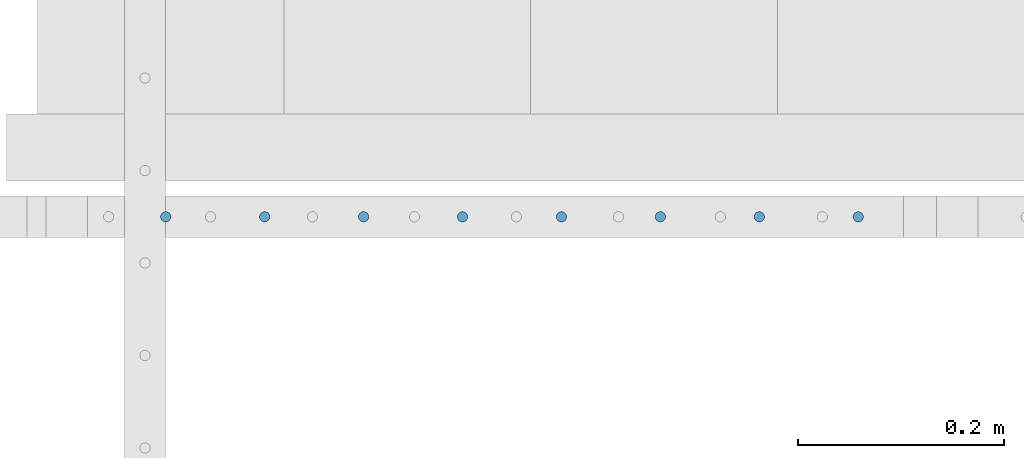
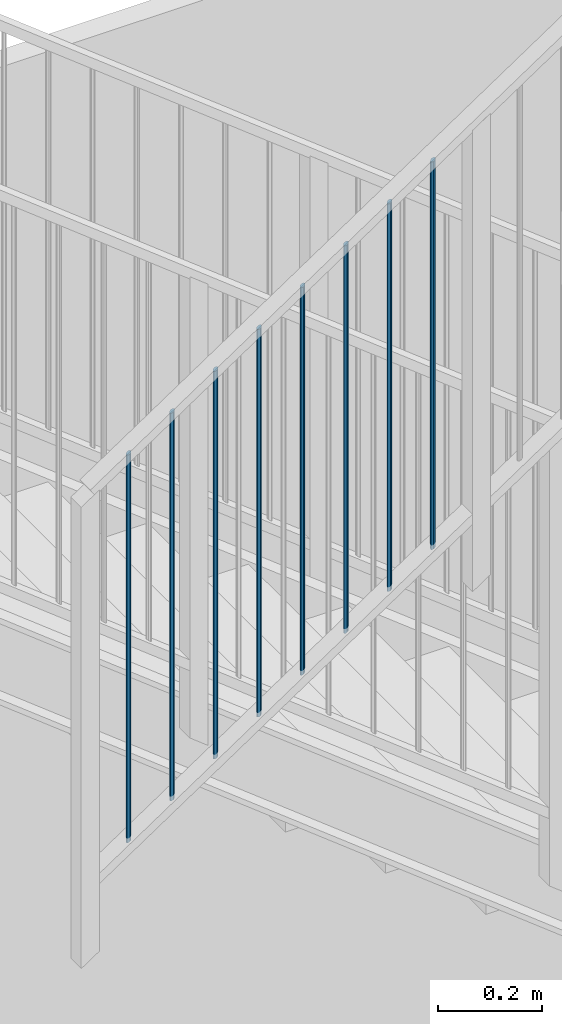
# One storey, part 13 of 135: 8 members, 1 element without a shape of its own.
"""IFC2X3 building model written with IfcOpenShell, lengths in millimetres."""

import ifcopenshell
import ifcopenshell.guid

model = None  # the IFC model being written
_history = None  # IfcOwnerHistory: only IFC2X3 demands one
_inside = {}  # id of a spatial element -> (the spatial element, [elements in it])
_under = {}  # id of a project, library or spatial element -> (it, [spatial elements below it])
_declared = {}  # id of a project -> (the project, [libraries it declares])
_typed = {}  # id of a type object -> (the type object, [elements of that type])
_made_of = {}  # id of a material, layer set ... -> (it, [elements and type objects made of it])


def new_model(schema):
    """Start an empty IFC model of exactly this schema.

    Asked for "IFC4X3", IfcOpenShell would pick the latest addendum, in which some entities
    have other attributes; the version numbers below select the first issue.
    IFC2X3 requires an IfcOwnerHistory on every rooted entity: one is made here for all.
    """
    global model, _history
    if schema == "IFC4X3":
        model = ifcopenshell.file(schema_version=(4, 3, 0, 0))
    else:
        model = ifcopenshell.file(schema=schema)
    _inside.clear()
    _under.clear()
    _declared.clear()
    _typed.clear()
    _made_of.clear()
    _history = None
    if model.schema == "IFC2X3":
        org = make("IfcOrganization", Name="unknown")
        user = make(
            "IfcPersonAndOrganization",
            ThePerson=make("IfcPerson", FamilyName="unknown"),
            TheOrganization=org,
        )
        app = make(
            "IfcApplication",
            ApplicationDeveloper=org,
            Version="unknown",
            ApplicationFullName="unknown",
            ApplicationIdentifier="unknown",
        )
        _history = make(
            "IfcOwnerHistory",
            OwningUser=user,
            OwningApplication=app,
            ChangeAction="ADDED",
            CreationDate=0,
        )
    return model


def make(cls, **values):
    """One entity of the class cls with the attributes given. An attribute that is None is left unset."""
    return model.create_entity(
        cls, **{name: value for name, value in values.items() if value is not None}
    )


def entity(cls, *values):
    """Any entity or typed value of the class cls, its attributes in the order of the schema. None: left unset."""
    e = model.create_entity(cls)
    for i, value in enumerate(values):
        if value is not None:
            e[i] = value
    return e


def rooted(cls, **values):
    """An entity with a GlobalId (a new one), such as an element, a storey or a relation."""
    return make(cls, GlobalId=ifcopenshell.guid.new(), OwnerHistory=_history, **values)


def si_unit(unit_type, name, prefix=None):
    """IfcSIUnit, for example si_unit("LENGTHUNIT", "METRE", prefix="MILLI")."""
    return make("IfcSIUnit", UnitType=unit_type, Prefix=prefix, Name=name)


def converted_unit(unit_type, name, factor, base, dimensions=None, offset=None):
    """IfcConversionBasedUnit, such as the inch: factor (a typed value) times the base unit."""
    return make(
        "IfcConversionBasedUnit"
        if offset is None
        else "IfcConversionBasedUnitWithOffset",
        ConversionOffset=offset,
        Dimensions=None
        if dimensions is None
        else entity("IfcDimensionalExponents", *dimensions),
        UnitType=unit_type,
        Name=name,
        ConversionFactor=make(
            "IfcMeasureWithUnit", ValueComponent=factor, UnitComponent=base
        ),
    )


def derived_unit(unit_type, elements):
    """IfcDerivedUnit: a product of units, each with its exponent."""
    return make(
        "IfcDerivedUnit",
        Elements=[
            make("IfcDerivedUnitElement", Unit=unit, Exponent=power)
            for unit, power in elements
        ],
        UnitType=unit_type,
    )


def money_unit(currency):
    """IfcMonetaryUnit."""
    return make("IfcMonetaryUnit", Currency=currency)


def assignment(units):
    """IfcUnitAssignment: the units of a project."""
    return None if units is None else make("IfcUnitAssignment", Units=units)


def point(xyz):
    """IfcCartesianPoint."""
    return None if xyz is None else make("IfcCartesianPoint", Coordinates=xyz)


def direction(xyz):
    """IfcDirection."""
    return None if xyz is None else make("IfcDirection", DirectionRatios=xyz)


def frame(location, z_axis=None, x_axis=None):
    """IfcAxis2Placement3D, a coordinate frame: its origin and axes. An axis left out is left unset."""
    return make(
        "IfcAxis2Placement3D",
        Location=point(location),
        Axis=direction(z_axis),
        RefDirection=direction(x_axis),
    )


def origin_with_axes():
    """The frame at (0, 0, 0) with the z axis (0, 0, 1) and the x axis (1, 0, 0) written out."""
    return frame((0.0, 0.0, 0.0), z_axis=(0.0, 0.0, 1.0), x_axis=(1.0, 0.0, 0.0))


def place(relative_to, where):
    """IfcLocalPlacement: puts the frame where relative to a parent placement (None: the world)."""
    return make(
        "IfcLocalPlacement", PlacementRelTo=relative_to, RelativePlacement=where
    )


def context(
    kind, dimensions, precision=None, world=None, true_north=None, identifier=None
):
    """IfcGeometricRepresentationContext, for example the 3D "Model" context."""
    return make(
        "IfcGeometricRepresentationContext",
        ContextIdentifier=identifier,
        ContextType=kind,
        CoordinateSpaceDimension=dimensions,
        Precision=precision,
        WorldCoordinateSystem=world,
        TrueNorth=true_north,
    )


def subcontext(parent, identifier, kind, view, scale=None):
    """IfcGeometricRepresentationSubContext, for example "Body" below "Model"."""
    return make(
        "IfcGeometricRepresentationSubContext",
        ContextIdentifier=identifier,
        ContextType=kind,
        ParentContext=parent,
        TargetScale=scale,
        TargetView=view,
    )


def project(units=None, contexts=None):
    """IfcProject with its units and contexts."""
    return rooted(
        "IfcProject",
        Name="project",
        RepresentationContexts=contexts,
        UnitsInContext=assignment(units),
    )


def spatial(cls, under=None, at=None, **own):
    """A site, building, storey or space (cls), placed at a placement, below another one or the project."""
    s = rooted(cls, ObjectPlacement=at, **own)
    if under is not None:
        _under.setdefault(under.id(), (under, []))[1].append(s)
    return s


def faces_of(points, faces, orient=None, outer=None):
    """IfcFace entities. A face is a list of loops; a loop is a list of indices into points, from 0.

    orient and outer hold one flag for each loop. By default every Orientation is true, the
    first loop of a face is its IfcFaceOuterBound and the others are IfcFaceBound.
    """
    made = []
    for i, loops in enumerate(faces):
        bounds = []
        for j, loop in enumerate(loops):
            is_outer = j == 0 if outer is None else outer[i][j]
            bounds.append(
                make(
                    "IfcFaceOuterBound" if is_outer else "IfcFaceBound",
                    Bound=make("IfcPolyLoop", Polygon=[points[k] for k in loop]),
                    Orientation=True if orient is None else orient[i][j],
                )
            )
        made.append(make("IfcFace", Bounds=bounds))
    return made


def faceted_brep(points, faces, orient=None, outer=None, voids=None):
    """IfcFacetedBrep: a solid bounded by flat faces; with voids (closed shells), ...WithVoids."""
    shared = [point(p) for p in points]
    hull = make("IfcClosedShell", CfsFaces=faces_of(shared, faces, orient, outer))
    if voids is None:
        return make("IfcFacetedBrep", Outer=hull)
    return make(
        "IfcFacetedBrepWithVoids",
        Outer=hull,
        Voids=[
            make(cls, CfsFaces=faces_of(shared, fs, o, b)) for cls, fs, o, b in voids
        ],
    )


def shape(context_of_items, identifier, shape_type, items):
    """IfcShapeRepresentation: the items that make up one representation, for example the "Body"."""
    return make(
        "IfcShapeRepresentation",
        ContextOfItems=context_of_items,
        RepresentationIdentifier=identifier,
        RepresentationType=shape_type,
        Items=items,
    )


def source(mapping_origin, context_of_items, identifier, shape_type, items):
    """IfcRepresentationMap: a shape defined once, which mapped items show again and again."""
    return make(
        "IfcRepresentationMap",
        MappingOrigin=mapping_origin,
        MappedRepresentation=shape(context_of_items, identifier, shape_type, items),
    )


def transform(
    local_origin,
    x_axis=None,
    y_axis=None,
    z_axis=None,
    scale=None,
    scale2=None,
    scale3=None,
    uniform=True,
):
    """IfcCartesianTransformationOperator3D, or its non-uniform kind. x_axis, y_axis, z_axis: its Axis1, 2, 3."""
    if uniform:
        return make(
            "IfcCartesianTransformationOperator3D",
            Axis1=direction(x_axis),
            Axis2=direction(y_axis),
            LocalOrigin=point(local_origin),
            Scale=scale,
            Axis3=direction(z_axis),
        )
    return make(
        "IfcCartesianTransformationOperator3DnonUniform",
        Axis1=direction(x_axis),
        Axis2=direction(y_axis),
        LocalOrigin=point(local_origin),
        Scale=scale,
        Axis3=direction(z_axis),
        Scale2=scale2,
        Scale3=scale3,
    )


def mapped(mapping_source, mapping_target):
    """IfcMappedItem: shows the shape of a source again, moved by a transform."""
    return make(
        "IfcMappedItem", MappingSource=mapping_source, MappingTarget=mapping_target
    )


def material(Name=None, Category=None):
    """IfcMaterial."""
    return make("IfcMaterial", Name=Name, Category=Category)


def made_of(thing, what):
    """Note that an element or type object is made of a material, layer set ...; save() writes the relation."""
    if what is not None:
        _made_of.setdefault(what.id(), (what, []))[1].append(thing)
    return thing


def type_object(cls, material=None, **own):
    """A type object (cls), such as IfcWallType, which elements share."""
    return made_of(rooted(cls, **own), material)


def type_shapes(of_type, sources):
    """Give a type object the sources (RepresentationMaps) that its elements show as mapped items."""
    of_type.RepresentationMaps = sources


def element(
    cls,
    number,
    at=None,
    inside=None,
    cuts=None,
    type_object=None,
    material=None,
    context=None,
    identifier="Body",
    shape_type=None,
    held_by="IfcProductDefinitionShape",
    body=None,
    shapes=None,
    **own,
):
    """One element of the class cls, such as IfcWall. Its Tag is "e" and its number.

    at: its placement. inside: the storey or other place that contains it. cuts: it is an
    opening in that element (IfcRelVoidsElement). A single representation is given by context,
    identifier, shape_type and body (its items); several are given by shapes. held_by: the class
    of the entity that holds the representations. save() writes the other relations.
    """
    e = rooted(cls, Tag="e%d" % number, ObjectPlacement=at, **own)
    if body is not None:
        shapes = [shape(context, identifier, shape_type, body)]
    if shapes is not None:
        e.Representation = make(held_by, Representations=shapes)
    if inside is not None:
        _inside.setdefault(inside.id(), (inside, []))[1].append(e)
    if cuts is not None:
        rooted(
            "IfcRelVoidsElement", RelatingBuildingElement=cuts, RelatedOpeningElement=e
        )
    if type_object is not None:
        _typed.setdefault(type_object.id(), (type_object, []))[1].append(e)
    return made_of(e, material)


def aggregate(whole, parts):
    """IfcRelAggregates: a whole, such as a stair, and the parts it consists of."""
    return rooted("IfcRelAggregates", RelatingObject=whole, RelatedObjects=parts)


def save(model, path):
    """Write the relations noted so far, then the file.

    IfcRelAggregates (storeys below a building ...), IfcRelContainedInSpatialStructure (elements
    in a storey), IfcRelDefinesByType, IfcRelAssociatesMaterial and IfcRelDeclares: one each for
    every whole, place, type object, material and project.
    """
    for whole, parts in _under.values():
        aggregate(whole, parts)
    for where, things in _inside.values():
        rooted(
            "IfcRelContainedInSpatialStructure",
            RelatedElements=things,
            RelatingStructure=where,
        )
    for kind, things in _typed.values():
        rooted("IfcRelDefinesByType", RelatedObjects=things, RelatingType=kind)
    for what, things in _made_of.values():
        rooted("IfcRelAssociatesMaterial", RelatedObjects=things, RelatingMaterial=what)
    for by, libraries in _declared.values():
        rooted("IfcRelDeclares", RelatingContext=by, RelatedDefinitions=libraries)
    model.write(path)


model = new_model("IFC2X3")

# Units and contexts
model_context = context("Model", 3, precision=0.01, world=origin_with_axes(), true_north=direction((0.0, 1.0)))
body_context = subcontext(model_context, "Body", "Model", "MODEL_VIEW")
ifc_project = project(units=[si_unit("LENGTHUNIT", "METRE", prefix="MILLI"), si_unit("AREAUNIT", "SQUARE_METRE"), si_unit("VOLUMEUNIT", "CUBIC_METRE"), converted_unit("PLANEANGLEUNIT", "DEGREE", entity("IfcPlaneAngleMeasure", 0.0174532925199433), si_unit("PLANEANGLEUNIT", "RADIAN"), dimensions=[0, 0, 0, 0, 0, 0, 0]), money_unit("EUR"), converted_unit("TIMEUNIT", "Year", entity("IfcTimeMeasure", 31557600.0), si_unit("TIMEUNIT", "SECOND"), dimensions=[0, 0, 1, 0, 0, 0, 0]), si_unit("MASSUNIT", "GRAM", prefix="KILO"), si_unit("THERMODYNAMICTEMPERATUREUNIT", "DEGREE_CELSIUS"), si_unit("LUMINOUSINTENSITYUNIT", "LUMEN"), si_unit("ENERGYUNIT", "JOULE", prefix="MEGA"), derived_unit("THERMALCONDUCTANCEUNIT", [(si_unit("POWERUNIT", "WATT"), 1), (si_unit("LENGTHUNIT", "METRE"), -1), (si_unit("THERMODYNAMICTEMPERATUREUNIT", "KELVIN"), -1)]), derived_unit("SPECIFICHEATCAPACITYUNIT", [(si_unit("ENERGYUNIT", "JOULE"), 1), (si_unit("MASSUNIT", "GRAM", prefix="KILO"), -1), (si_unit("THERMODYNAMICTEMPERATUREUNIT", "KELVIN"), -1)]), derived_unit("MASSDENSITYUNIT", [(si_unit("MASSUNIT", "GRAM", prefix="KILO"), 1), (si_unit("VOLUMEUNIT", "CUBIC_METRE"), -1)])], contexts=[model_context])

# Site, building, storey
site_placement = place(None, origin_with_axes())
site = spatial("IfcSite", under=ifc_project, at=site_placement, Name="Site", CompositionType="ELEMENT")
building_placement = place(site_placement, origin_with_axes())
building = spatial("IfcBuilding", under=site, at=building_placement, Name="Naam gebouw", CompositionType="ELEMENT")
storey_placement = place(building_placement, origin_with_axes())
storey = spatial("IfcBuildingStorey", under=building, at=storey_placement, Name="Begane grond N", CompositionType="ELEMENT", Elevation=0.0)

# Railing, members
railing_type = type_object("IfcRailingType", Name="Railing Type", PredefinedType="NOTDEFINED")
railing_placement = place(storey_placement, frame((56236.62159597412, 21185.9124251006, 4176.0), z_axis=(0.0, 0.0, 1.0), x_axis=(1.0, 0.0, 0.0)))
railing = element("IfcRailing", 1, at=railing_placement, inside=storey, type_object=railing_type, Name="_Reling-x", PredefinedType="NOTDEFINED")
ifc_material = material(Name="Metaal - Staal C")
member_type = type_object("IfcMemberType", Name="IfcMember", PredefinedType="MEMBER")
shared_shape = source(origin_with_axes(), body_context, "Body", "Brep", [
    faceted_brep([(0.0, -5.000000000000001, -3.340321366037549), (0.8682408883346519, -4.924038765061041, -3.289574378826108), (0.8682408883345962, -4.924038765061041, 904.2104256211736), (0.0, -5.000000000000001, 904.1596786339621), (-0.8682408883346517, -4.924038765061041, -3.289574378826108), (-1.710100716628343, -4.698463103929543, -3.13887533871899), (-2.500000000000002, -4.330127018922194, -2.892803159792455), (-3.213938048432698, -3.83022221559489, -2.558834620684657), (-3.830222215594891, -3.213938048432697, -2.147117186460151), (-4.330127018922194, -2.500000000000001, -1.670160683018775), (-4.698463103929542, -1.710100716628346, -1.142457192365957), (-4.924038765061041, -0.8682408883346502, -0.5800407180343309), (-5.0, 0.0, 0.0), (-4.92403876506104, 0.8682408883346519, 0.5800407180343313), (-4.698463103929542, 1.710100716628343, 1.142457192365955), (-4.330127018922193, 2.500000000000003, 1.670160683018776), (-3.83022221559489, 3.213938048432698, 2.147117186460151), (-3.213938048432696, 3.830222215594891, 2.558834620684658), (-2.5, 4.330127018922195, 2.892803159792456), (-1.710100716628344, 4.698463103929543, 3.13887533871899), (-0.8682408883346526, 4.924038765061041, 3.289574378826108), (0.0, 5.000000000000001, 3.340321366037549), (0.8682408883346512, 4.924038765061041, 3.289574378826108), (1.710100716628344, 4.698463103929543, 3.13887533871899), (2.5, 4.330127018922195, 2.892803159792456), (3.213938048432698, 3.83022221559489, 2.558834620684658), (3.83022221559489, 3.213938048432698, 2.147117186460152), (4.330127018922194, 2.499999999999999, 1.670160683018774), (4.698463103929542, 1.710100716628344, 1.142457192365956), (4.92403876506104, 0.8682408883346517, 0.580040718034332), (5.0, 0.0, 0.0), (4.92403876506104, -0.8682408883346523, -0.5800407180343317), (4.698463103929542, -1.710100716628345, -1.142457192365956), (4.330127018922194, -2.500000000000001, -1.670160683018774), (3.83022221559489, -3.213938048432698, -2.147117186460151), (3.213938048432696, -3.830222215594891, -2.558834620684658), (2.5, -4.330127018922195, -2.892803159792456), (1.710100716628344, -4.698463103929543, -3.13887533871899), (1.710100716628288, -4.698463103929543, 904.3611246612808), (2.499999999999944, -4.330127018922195, 904.6071968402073), (3.213938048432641, -3.830222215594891, 904.9411653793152), (3.830222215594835, -3.213938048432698, 905.3528828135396), (4.330127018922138, -2.500000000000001, 905.8298393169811), (4.698463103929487, -1.710100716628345, 906.3575428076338), (4.924038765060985, -0.8682408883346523, 906.9199592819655), (4.999999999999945, 0.0, 907.4999999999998), (4.924038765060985, 0.8682408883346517, 908.0800407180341), (4.698463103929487, 1.710100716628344, 908.6424571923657), (4.330127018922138, 2.499999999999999, 909.1701606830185), (3.830222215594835, 3.213938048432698, 909.6471171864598), (3.213938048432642, 3.83022221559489, 910.0588346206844), (2.499999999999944, 4.330127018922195, 910.3928031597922), (1.710100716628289, 4.698463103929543, 910.6388753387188), (0.8682408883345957, 4.924038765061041, 910.7895743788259), (0.0, 5.000000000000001, 910.8403213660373), (-0.8682408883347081, 4.924038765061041, 910.7895743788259), (-1.710100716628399, 4.698463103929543, 910.6388753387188), (-2.500000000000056, 4.330127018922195, 910.3928031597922), (-3.213938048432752, 3.830222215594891, 910.0588346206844), (-3.830222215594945, 3.213938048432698, 909.6471171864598), (-4.330127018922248, 2.500000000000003, 909.1701606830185), (-4.698463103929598, 1.710100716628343, 908.6424571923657), (-4.924038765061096, 0.8682408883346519, 908.0800407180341), (-5.000000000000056, 0.0, 907.4999999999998), (-4.924038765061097, -0.8682408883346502, 906.9199592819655), (-4.698463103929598, -1.710100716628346, 906.3575428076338), (-4.330127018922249, -2.500000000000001, 905.8298393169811), (-3.830222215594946, -3.213938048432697, 905.3528828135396), (-3.213938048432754, -3.83022221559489, 904.9411653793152), (-2.500000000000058, -4.330127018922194, 904.6071968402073), (-1.710100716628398, -4.698463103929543, 904.3611246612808), (-0.8682408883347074, -4.924038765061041, 904.2104256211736)], [[[0, 1, 2, 3]], [[0, 4, 5, 6, 7, 8, 9, 10, 11, 12, 13, 14, 15, 16, 17, 18, 19, 20, 21, 22, 23, 24, 25, 26, 27, 28, 29, 30, 31, 32, 33, 34, 35, 36, 37, 1]], [[1, 37, 38, 2]], [[3, 2, 38, 39, 40, 41, 42, 43, 44, 45, 46, 47, 48, 49, 50, 51, 52, 53, 54, 55, 56, 57, 58, 59, 60, 61, 62, 63, 64, 65, 66, 67, 68, 69, 70, 71]], [[4, 0, 3, 71]], [[5, 4, 71, 70]], [[6, 5, 70, 69]], [[7, 6, 69, 68]], [[8, 7, 68, 67]], [[9, 8, 67, 66]], [[10, 9, 66, 65]], [[11, 10, 65, 64]], [[12, 11, 64, 63]], [[13, 12, 63, 62]], [[14, 13, 62, 61]], [[15, 14, 61, 60]], [[16, 15, 60, 59]], [[17, 16, 59, 58]], [[18, 17, 58, 57]], [[19, 18, 57, 56]], [[20, 19, 56, 55]], [[21, 20, 55, 54]], [[22, 21, 54, 53]], [[23, 22, 53, 52]], [[24, 23, 52, 51]], [[25, 24, 51, 50]], [[26, 25, 50, 49]], [[27, 26, 49, 48]], [[28, 27, 48, 47]], [[29, 28, 47, 46]], [[30, 29, 46, 45]], [[31, 30, 45, 44]], [[32, 31, 44, 43]], [[33, 32, 43, 42]], [[34, 33, 42, 41]], [[35, 34, 41, 40]], [[36, 35, 40, 39]], [[37, 36, 39, 38]]]),
])
type_shapes(member_type, [shared_shape])
member_1_placement = place(railing_placement, frame((18.21181250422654, -24.99999999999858, 134.3212448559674), z_axis=(0.0, 0.0, 1.0), x_axis=(1.0, 0.0, 0.0)))
member_1 = element("IfcMember", 2, at=member_1_placement, type_object=member_type, material=ifc_material, Name="_Spijlen-x", ObjectType="MEMBER", context=body_context, shape_type="MappedRepresentation", body=[
    mapped(shared_shape, transform((0.0, 0.0, 0.0), x_axis=(0.0, -1.0, 0.0), y_axis=(1.0, 0.0, 0.0), z_axis=(0.0, 0.0, 1.0))),
])
member_2_placement = place(railing_placement, frame((114.4918373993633, -24.99999999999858, 198.6424897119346), z_axis=(0.0, 0.0, 1.0), x_axis=(1.0, 0.0, 0.0)))
member_2 = element("IfcMember", 3, at=member_2_placement, type_object=member_type, material=ifc_material, Name="_Spijlen-x", ObjectType="MEMBER", context=body_context, shape_type="MappedRepresentation", body=[
    mapped(shared_shape, transform((0.0, 0.0, 0.0), x_axis=(0.0, -1.0, 0.0), y_axis=(1.0, 0.0, 0.0), z_axis=(0.0, 0.0, 1.0))),
])
member_3_placement = place(railing_placement, frame((210.771862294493, -24.99999999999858, 262.9637345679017), z_axis=(0.0, 0.0, 1.0), x_axis=(1.0, 0.0, 0.0)))
member_3 = element("IfcMember", 4, at=member_3_placement, type_object=member_type, material=ifc_material, Name="_Spijlen-x", ObjectType="MEMBER", context=body_context, shape_type="MappedRepresentation", body=[
    mapped(shared_shape, transform((0.0, 0.0, 0.0), x_axis=(0.0, -1.0, 0.0), y_axis=(1.0, 0.0, 0.0), z_axis=(0.0, 0.0, 1.0))),
])
member_4_placement = place(railing_placement, frame((307.0518871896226, -24.99999999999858, 327.2849794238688), z_axis=(0.0, 0.0, 1.0), x_axis=(1.0, 0.0, 0.0)))
member_4 = element("IfcMember", 5, at=member_4_placement, type_object=member_type, material=ifc_material, Name="_Spijlen-x", ObjectType="MEMBER", context=body_context, shape_type="MappedRepresentation", body=[
    mapped(shared_shape, transform((0.0, 0.0, 0.0), x_axis=(0.0, -1.0, 0.0), y_axis=(1.0, 0.0, 0.0), z_axis=(0.0, 0.0, 1.0))),
])
member_5_placement = place(railing_placement, frame((403.3319120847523, -24.99999999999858, 391.6062242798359), z_axis=(0.0, 0.0, 1.0), x_axis=(1.0, 0.0, 0.0)))
member_5 = element("IfcMember", 6, at=member_5_placement, type_object=member_type, material=ifc_material, Name="_Spijlen-x", ObjectType="MEMBER", context=body_context, shape_type="MappedRepresentation", body=[
    mapped(shared_shape, transform((0.0, 0.0, 0.0), x_axis=(0.0, -1.0, 0.0), y_axis=(1.0, 0.0, 0.0), z_axis=(0.0, 0.0, 1.0))),
])
member_6_placement = place(railing_placement, frame((499.611936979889, -24.99999999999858, 455.9274691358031), z_axis=(0.0, 0.0, 1.0), x_axis=(1.0, 0.0, 0.0)))
member_6 = element("IfcMember", 7, at=member_6_placement, type_object=member_type, material=ifc_material, Name="_Spijlen-x", ObjectType="MEMBER", context=body_context, shape_type="MappedRepresentation", body=[
    mapped(shared_shape, transform((0.0, 0.0, 0.0), x_axis=(0.0, -1.0, 0.0), y_axis=(1.0, 0.0, 0.0), z_axis=(0.0, 0.0, 1.0))),
])
member_7_placement = place(railing_placement, frame((595.8919618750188, -24.99999999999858, 520.2487139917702), z_axis=(0.0, 0.0, 1.0), x_axis=(1.0, 0.0, 0.0)))
member_7 = element("IfcMember", 8, at=member_7_placement, type_object=member_type, material=ifc_material, Name="_Spijlen-x", ObjectType="MEMBER", context=body_context, shape_type="MappedRepresentation", body=[
    mapped(shared_shape, transform((0.0, 0.0, 0.0), x_axis=(0.0, -1.0, 0.0), y_axis=(1.0, 0.0, 0.0), z_axis=(0.0, 0.0, 1.0))),
])
member_8_placement = place(railing_placement, frame((692.1719867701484, -24.99999999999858, 584.5699588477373), z_axis=(0.0, 0.0, 1.0), x_axis=(1.0, 0.0, 0.0)))
member_8 = element("IfcMember", 9, at=member_8_placement, type_object=member_type, material=ifc_material, Name="_Spijlen-x", ObjectType="MEMBER", context=body_context, shape_type="MappedRepresentation", body=[
    mapped(shared_shape, transform((0.0, 0.0, 0.0), x_axis=(0.0, -1.0, 0.0), y_axis=(1.0, 0.0, 0.0), z_axis=(0.0, 0.0, 1.0))),
])
aggregate(railing, [member_1, member_2, member_3, member_4, member_5, member_6, member_7, member_8])

save(model, "model.ifc")
